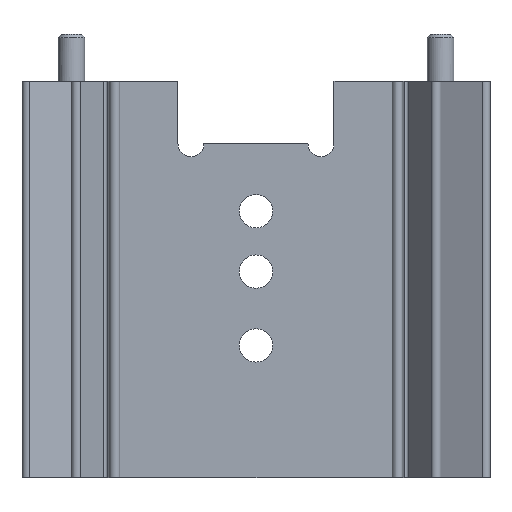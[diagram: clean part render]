
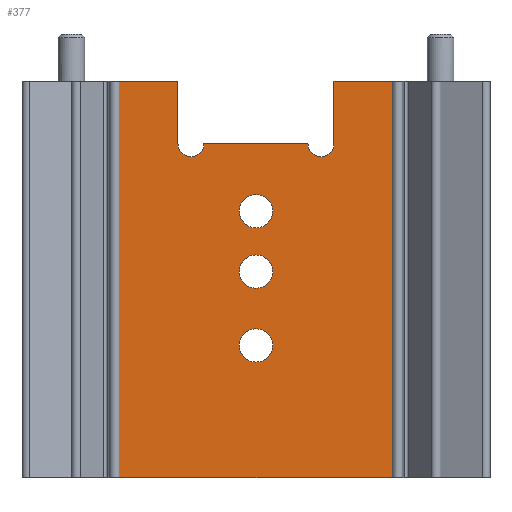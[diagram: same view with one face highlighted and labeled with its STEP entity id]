
A CAD part, front view. The second image highlights one B-rep face of the part: STEP entity #377.
In plain terms, the highlighted planar face has unit normal (0, -1, 0).
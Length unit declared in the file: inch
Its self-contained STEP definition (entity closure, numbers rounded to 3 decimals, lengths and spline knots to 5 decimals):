
#61 = CIRCLE ( 'NONE', #1899, 0.06299 ) ;
#75 = VERTEX_POINT ( 'NONE', #1316 ) ;
#146 = EDGE_CURVE ( 'NONE', #2938, #157, #663, .T. ) ;
#147 = ORIENTED_EDGE ( 'NONE', *, *, #1086, .F. ) ;
#157 = VERTEX_POINT ( 'NONE', #2159 ) ;
#229 = CARTESIAN_POINT ( 'NONE',  ( 0., -0.05906, -1.06299 ) ) ;
#285 = ORIENTED_EDGE ( 'NONE', *, *, #146, .F. ) ;
#309 = EDGE_CURVE ( 'NONE', #2768, #2969, #462, .T. ) ;
#320 = DIRECTION ( 'NONE',  ( 1., 0., 0. ) ) ;
#328 = DIRECTION ( 'NONE',  ( 1., 0., 0. ) ) ;
#377 = ADVANCED_FACE ( 'NONE', ( #1485, #2279, #854, #1193 ), #3468, .T. ) ;
#384 = VERTEX_POINT ( 'NONE', #1465 ) ;
#397 = CARTESIAN_POINT ( 'NONE',  ( 0.29528, -0.05906, -1.5 ) ) ;
#425 = CARTESIAN_POINT ( 'NONE',  ( 0., -0.05906, -0.49213 ) ) ;
#440 = DIRECTION ( 'NONE',  ( 1., 0., 0. ) ) ;
#445 = VECTOR ( 'NONE', #806, 39.37008 ) ;
#462 = LINE ( 'NONE', #1400, #836 ) ;
#486 = CARTESIAN_POINT ( 'NONE',  ( -0.51575, -0.05906, -0.23622 ) ) ;
#580 = VECTOR ( 'NONE', #1797, 39.37008 ) ;
#632 = ORIENTED_EDGE ( 'NONE', *, *, #3214, .F. ) ;
#658 = DIRECTION ( 'NONE',  ( 1., 0., 0. ) ) ;
#663 = CIRCLE ( 'NONE', #2774, 0.06299 ) ;
#665 = CIRCLE ( 'NONE', #855, 0.04921 ) ;
#680 = AXIS2_PLACEMENT_3D ( 'NONE', #945, #3518, #658 ) ;
#700 = VERTEX_POINT ( 'NONE', #936 ) ;
#706 = EDGE_CURVE ( 'NONE', #2155, #3083, #3408, .T. ) ;
#806 = DIRECTION ( 'NONE',  ( 1., 0., 0. ) ) ;
#821 = CARTESIAN_POINT ( 'NONE',  ( -0.51575, -0.05906, -1.5 ) ) ;
#836 = VECTOR ( 'NONE', #440, 39.37008 ) ;
#848 = ORIENTED_EDGE ( 'NONE', *, *, #706, .F. ) ;
#850 = EDGE_CURVE ( 'NONE', #1291, #852, #2839, .T. ) ;
#852 = VERTEX_POINT ( 'NONE', #2523 ) ;
#854 = FACE_BOUND ( 'NONE', #1069, .T. ) ;
#855 = AXIS2_PLACEMENT_3D ( 'NONE', #1964, #1114, #2261 ) ;
#936 = CARTESIAN_POINT ( 'NONE',  ( 0.29528, -0.05906, -0.23622 ) ) ;
#945 = CARTESIAN_POINT ( 'NONE',  ( 0.24606, -0.05906, -0.23622 ) ) ;
#951 = EDGE_CURVE ( 'NONE', #1291, #75, #3667, .T. ) ;
#952 = EDGE_LOOP ( 'NONE', ( #632, #2688 ) ) ;
#1010 = EDGE_CURVE ( 'NONE', #852, #1936, #2926, .T. ) ;
#1050 = AXIS2_PLACEMENT_3D ( 'NONE', #3024, #2734, #1863 ) ;
#1069 = EDGE_LOOP ( 'NONE', ( #285, #1350 ) ) ;
#1071 = CARTESIAN_POINT ( 'NONE',  ( 0., -0.05906, -0.65748 ) ) ;
#1076 = CARTESIAN_POINT ( 'NONE',  ( -0.51575, -0.05906, -1.5 ) ) ;
#1086 = EDGE_CURVE ( 'NONE', #1936, #384, #2044, .T. ) ;
#1089 = CARTESIAN_POINT ( 'NONE',  ( 0.51575, -0.05906, 0. ) ) ;
#1114 = DIRECTION ( 'NONE',  ( 0., -1., 0. ) ) ;
#1143 = CARTESIAN_POINT ( 'NONE',  ( 0., -0.05906, -0.42913 ) ) ;
#1193 = FACE_BOUND ( 'NONE', #952, .T. ) ;
#1194 = CARTESIAN_POINT ( 'NONE',  ( -0.29528, -0.05906, -1.5 ) ) ;
#1218 = DIRECTION ( 'NONE',  ( 0., -1., 0. ) ) ;
#1227 = LINE ( 'NONE', #2078, #580 ) ;
#1274 = ORIENTED_EDGE ( 'NONE', *, *, #3148, .F. ) ;
#1291 = VERTEX_POINT ( 'NONE', #2788 ) ;
#1292 = CARTESIAN_POINT ( 'NONE',  ( 0.19685, -0.05906, -0.23622 ) ) ;
#1294 = CIRCLE ( 'NONE', #680, 0.04921 ) ;
#1308 = DIRECTION ( 'NONE',  ( 1., 0., 0. ) ) ;
#1316 = CARTESIAN_POINT ( 'NONE',  ( 0.51575, -0.05906, -1.5 ) ) ;
#1350 = ORIENTED_EDGE ( 'NONE', *, *, #1523, .F. ) ;
#1371 = DIRECTION ( 'NONE',  ( 1., 0., 0. ) ) ;
#1374 = ORIENTED_EDGE ( 'NONE', *, *, #850, .F. ) ;
#1400 = CARTESIAN_POINT ( 'NONE',  ( -0.51575, -0.05906, 0. ) ) ;
#1401 = AXIS2_PLACEMENT_3D ( 'NONE', #3074, #3668, #1705 ) ;
#1465 = CARTESIAN_POINT ( 'NONE',  ( -0.29528, -0.05906, -0.23622 ) ) ;
#1485 = FACE_BOUND ( 'NONE', #3163, .T. ) ;
#1487 = ORIENTED_EDGE ( 'NONE', *, *, #1010, .F. ) ;
#1523 = EDGE_CURVE ( 'NONE', #157, #2938, #3186, .T. ) ;
#1531 = ORIENTED_EDGE ( 'NONE', *, *, #951, .T. ) ;
#1539 = VECTOR ( 'NONE', #2678, 39.37008 ) ;
#1548 = EDGE_LOOP ( 'NONE', ( #147, #1487, #1374, #1531, #2321, #3128, #3396, #1274, #3554, #3576 ) ) ;
#1561 = CARTESIAN_POINT ( 'NONE',  ( 0., -0.05906, -0.72047 ) ) ;
#1582 = CARTESIAN_POINT ( 'NONE',  ( 0., -0.05906, -0.55512 ) ) ;
#1632 = DIRECTION ( 'NONE',  ( 1., 0., 0. ) ) ;
#1651 = LINE ( 'NONE', #486, #2017 ) ;
#1657 = CARTESIAN_POINT ( 'NONE',  ( -0.19685, -0.05906, -0.23622 ) ) ;
#1705 = DIRECTION ( 'NONE',  ( 1., 0., 0. ) ) ;
#1717 = AXIS2_PLACEMENT_3D ( 'NONE', #425, #3281, #1632 ) ;
#1719 = CIRCLE ( 'NONE', #1717, 0.06299 ) ;
#1797 = DIRECTION ( 'NONE',  ( 0., 0., 1. ) ) ;
#1838 = VECTOR ( 'NONE', #3419, 39.37008 ) ;
#1863 = DIRECTION ( 'NONE',  ( 1., 0., 0. ) ) ;
#1882 = ORIENTED_EDGE ( 'NONE', *, *, #3696, .F. ) ;
#1899 = AXIS2_PLACEMENT_3D ( 'NONE', #3018, #3591, #1308 ) ;
#1936 = VERTEX_POINT ( 'NONE', #3722 ) ;
#1940 = EDGE_CURVE ( 'NONE', #384, #3380, #665, .T. ) ;
#1964 = CARTESIAN_POINT ( 'NONE',  ( -0.24606, -0.05906, -0.23622 ) ) ;
#2017 = VECTOR ( 'NONE', #1371, 39.37008 ) ;
#2044 = LINE ( 'NONE', #1194, #1539 ) ;
#2066 = EDGE_CURVE ( 'NONE', #700, #2768, #2100, .T. ) ;
#2078 = CARTESIAN_POINT ( 'NONE',  ( 0.51575, -0.05906, -1.5 ) ) ;
#2100 = LINE ( 'NONE', #397, #2956 ) ;
#2155 = VERTEX_POINT ( 'NONE', #229 ) ;
#2159 = CARTESIAN_POINT ( 'NONE',  ( 0., -0.05906, -0.78346 ) ) ;
#2202 = VECTOR ( 'NONE', #320, 39.37008 ) ;
#2261 = DIRECTION ( 'NONE',  ( 1., 0., 0. ) ) ;
#2265 = CARTESIAN_POINT ( 'NONE',  ( -0.51575, -0.05906, -1.5 ) ) ;
#2279 = FACE_OUTER_BOUND ( 'NONE', #1548, .T. ) ;
#2321 = ORIENTED_EDGE ( 'NONE', *, *, #2342, .T. ) ;
#2342 = EDGE_CURVE ( 'NONE', #75, #2969, #1227, .T. ) ;
#2523 = CARTESIAN_POINT ( 'NONE',  ( -0.51575, -0.05906, 0. ) ) ;
#2626 = DIRECTION ( 'NONE',  ( 1., 0., 0. ) ) ;
#2678 = DIRECTION ( 'NONE',  ( 0., 0., -1. ) ) ;
#2688 = ORIENTED_EDGE ( 'NONE', *, *, #2809, .F. ) ;
#2734 = DIRECTION ( 'NONE',  ( 0., -1., 0. ) ) ;
#2768 = VERTEX_POINT ( 'NONE', #2934 ) ;
#2774 = AXIS2_PLACEMENT_3D ( 'NONE', #1561, #2966, #3047 ) ;
#2788 = CARTESIAN_POINT ( 'NONE',  ( -0.51575, -0.05906, -1.5 ) ) ;
#2809 = EDGE_CURVE ( 'NONE', #2940, #3481, #1719, .T. ) ;
#2839 = LINE ( 'NONE', #2265, #1838 ) ;
#2913 = EDGE_CURVE ( 'NONE', #3380, #3236, #1651, .T. ) ;
#2926 = LINE ( 'NONE', #3231, #2202 ) ;
#2934 = CARTESIAN_POINT ( 'NONE',  ( 0.29528, -0.05906, 0. ) ) ;
#2938 = VERTEX_POINT ( 'NONE', #1071 ) ;
#2940 = VERTEX_POINT ( 'NONE', #1582 ) ;
#2956 = VECTOR ( 'NONE', #2990, 39.37008 ) ;
#2966 = DIRECTION ( 'NONE',  ( 0., -1., 0. ) ) ;
#2969 = VERTEX_POINT ( 'NONE', #1089 ) ;
#2990 = DIRECTION ( 'NONE',  ( 0., 0., 1. ) ) ;
#3018 = CARTESIAN_POINT ( 'NONE',  ( 0., -0.05906, -1. ) ) ;
#3024 = CARTESIAN_POINT ( 'NONE',  ( 0., -0.05906, -0.49213 ) ) ;
#3047 = DIRECTION ( 'NONE',  ( 1., 0., 0. ) ) ;
#3074 = CARTESIAN_POINT ( 'NONE',  ( 0., -0.05906, -0.72047 ) ) ;
#3083 = VERTEX_POINT ( 'NONE', #3188 ) ;
#3105 = CIRCLE ( 'NONE', #1050, 0.06299 ) ;
#3128 = ORIENTED_EDGE ( 'NONE', *, *, #309, .F. ) ;
#3148 = EDGE_CURVE ( 'NONE', #3236, #700, #1294, .T. ) ;
#3163 = EDGE_LOOP ( 'NONE', ( #1882, #848 ) ) ;
#3173 = DIRECTION ( 'NONE',  ( 0., -1., 0. ) ) ;
#3186 = CIRCLE ( 'NONE', #1401, 0.06299 ) ;
#3188 = CARTESIAN_POINT ( 'NONE',  ( 0., -0.05906, -0.93701 ) ) ;
#3214 = EDGE_CURVE ( 'NONE', #3481, #2940, #3105, .T. ) ;
#3231 = CARTESIAN_POINT ( 'NONE',  ( -0.51575, -0.05906, 0. ) ) ;
#3236 = VERTEX_POINT ( 'NONE', #1292 ) ;
#3281 = DIRECTION ( 'NONE',  ( 0., -1., 0. ) ) ;
#3380 = VERTEX_POINT ( 'NONE', #1657 ) ;
#3396 = ORIENTED_EDGE ( 'NONE', *, *, #2066, .F. ) ;
#3408 = CIRCLE ( 'NONE', #3649, 0.06299 ) ;
#3419 = DIRECTION ( 'NONE',  ( 0., 0., 1. ) ) ;
#3468 = PLANE ( 'NONE',  #3496 ) ;
#3481 = VERTEX_POINT ( 'NONE', #1143 ) ;
#3496 = AXIS2_PLACEMENT_3D ( 'NONE', #821, #3173, #2626 ) ;
#3518 = DIRECTION ( 'NONE',  ( 0., -1., 0. ) ) ;
#3530 = CARTESIAN_POINT ( 'NONE',  ( 0., -0.05906, -1. ) ) ;
#3554 = ORIENTED_EDGE ( 'NONE', *, *, #2913, .F. ) ;
#3576 = ORIENTED_EDGE ( 'NONE', *, *, #1940, .F. ) ;
#3591 = DIRECTION ( 'NONE',  ( 0., -1., 0. ) ) ;
#3649 = AXIS2_PLACEMENT_3D ( 'NONE', #3530, #1218, #328 ) ;
#3667 = LINE ( 'NONE', #1076, #445 ) ;
#3668 = DIRECTION ( 'NONE',  ( 0., -1., 0. ) ) ;
#3696 = EDGE_CURVE ( 'NONE', #3083, #2155, #61, .T. ) ;
#3722 = CARTESIAN_POINT ( 'NONE',  ( -0.29528, -0.05906, 0. ) ) ;
